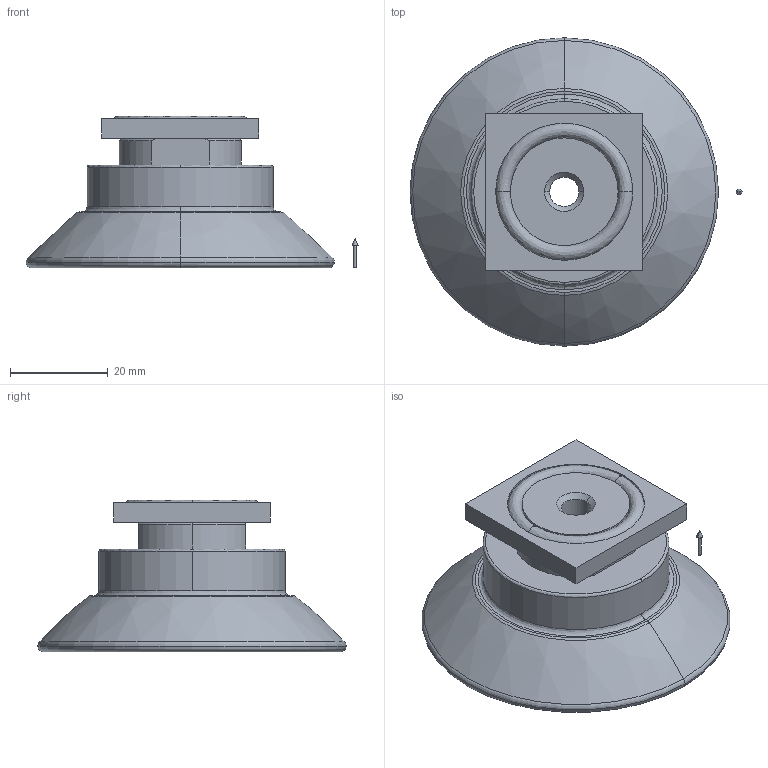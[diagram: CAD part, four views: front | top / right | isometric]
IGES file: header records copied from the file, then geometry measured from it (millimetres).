
Start section: 3D InterOp IGES (v. 2018 1.0.2), Spatial Corp. Copyright (c) 1999-2017.
Global section: file name: schmalz_10_01_01_10799_g7fotwrj9t0vf7t8vk69733m.igs; native system: Spatial Corp.; preprocessor: 3D InterOp ACIS/IGES; author: TraceParts; organization: TraceParts S.A.; date: 20181105.020555; units: millimetre
Bounding box: 67.8 x 63 x 31 mm (x, y, z)
Surface area: 12670 mm2 (no closed solid volume)
Topology: 0 solids, 0 shells, 66 faces, 308 edges, 306 vertices
Faces by surface type: revolution 50, extrusion 16
